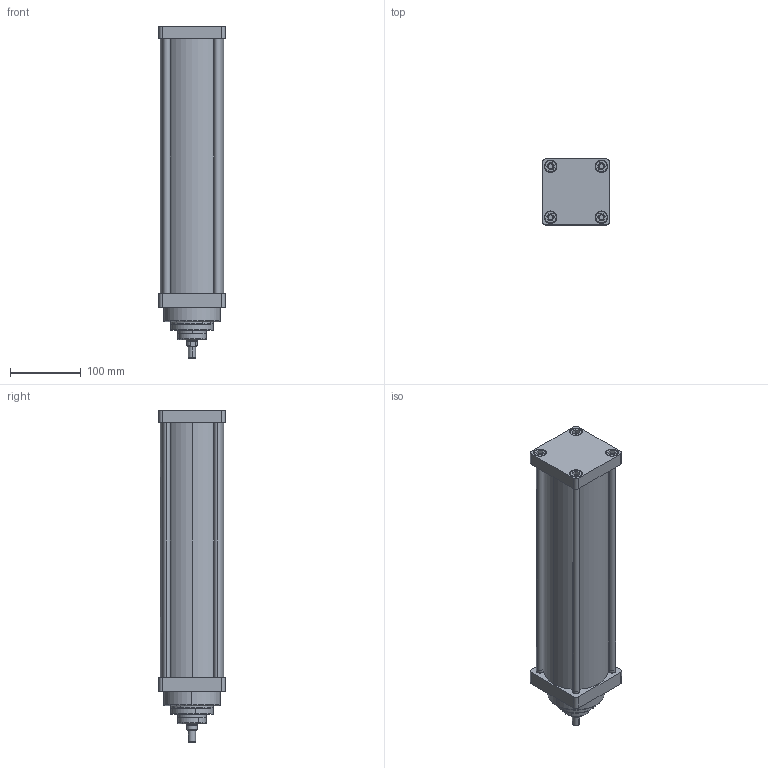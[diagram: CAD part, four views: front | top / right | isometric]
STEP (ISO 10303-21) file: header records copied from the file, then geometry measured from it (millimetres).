
FILE_DESCRIPTION (( 'STEP AP214' ), '1' );
FILE_NAME ('TLSK_3K_80_900.STEP', '2023-01-07T17:21:17', ( '' ), ( '' ), 'SwSTEP 2.0', 'SolidWorks 2021', '' );
FILE_SCHEMA (( 'AUTOMOTIVE_DESIGN' ));
Length unit declared in the file: millimetre
Products named in the file (19): 40_35_boru_WEB; 80_90_alm_boru_WEB; 63_400_26boru_kapak_otto; 56_60_alm.boru_WEB; CIVATA_WEB; KO-54X3; pap_40_44_12; 63_1600_50boru_kapak_teleskopik; K52-16X20_5X3_6-4_8; Kastas Seals-KO-32X2_5; K103-040; TLSK_3K_80_900; 63_ARKA_KAPAK_OZEL; M8_SAPLAMA_100_WEB; 16_18_PAP_16_18_10_PAP; pap_60_65_12; 16_K_M尳_WEB; K103-060; 63_ON_KAPAK_OZEL
Assembly tree (28 placements, depth 2):
  TLSK_3K_80_900
    40_35_boru_WEB
    16_K_M尳_WEB
    63_400_26boru_kapak_otto
    Kastas Seals-KO-32X2_5
    63_ON_KAPAK_OZEL
    63_ARKA_KAPAK_OZEL
    56_60_alm.boru_WEB
    63_1600_50boru_kapak_teleskopik
    K103-060
    pap_40_44_12
    pap_60_65_12
    K103-040
    KO-54X3
    80_90_alm_boru_WEB
    16_18_PAP_16_18_10_PAP
    K52-16X20_5X3_6-4_8
    M8_SAPLAMA_100_WEB  x4
    CIVATA_WEB  x8
Bounding box: 94 x 94 x 469.66 mm (x, y, z)
Volume: 1017830.6 mm3; surface area: 439215.1 mm2
Topology: 28 solids, 28 shells, 1122 faces, 2681 edges, 1710 vertices
Faces by surface type: cylinder 384, plane 332, bspline 217, cone 167, torus 22
Entity records: 58267 total; most frequent: CARTESIAN_POINT 37567, ORIENTED_EDGE 4386, DIRECTION 3431, EDGE_CURVE 2193, VERTEX_POINT 1408, AXIS2_PLACEMENT_3D 1272, EDGE_LOOP 1023, VECTOR 887
